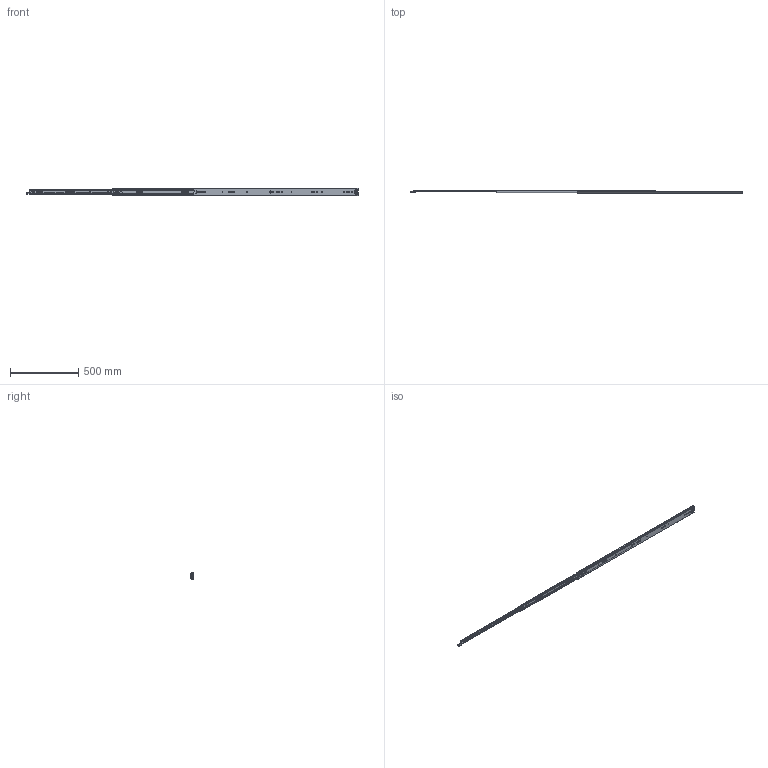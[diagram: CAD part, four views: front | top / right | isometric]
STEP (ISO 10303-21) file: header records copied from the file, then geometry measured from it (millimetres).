
FILE_DESCRIPTION((''),'2;1');
FILE_NAME('KP-57-01ZUZHUANGTU-48_ASM','2023-04-01T',('jishu015'),(''),'PRO/ENGINEER BY PARAMETRIC TECHNOLOGY CORPORATION, 2010280','PRO/ENGINEER BY PARAMETRIC TECHNOLOGY CORPORATION, 2010280','');
FILE_SCHEMA(('CONFIG_CONTROL_DESIGN'));
Products named in the file (22): KP-57-01WEIKE-18____; 1057WEIJIAO____; WAIKE___ASM; KP-57-01ZHONGGUI-18____; ZHONGGUIPEIJIAN-11__; ZHONGGUISUOKOU-11__; KP-57-01ZHONGGUI-18_____ASM; 1057XIAOZHUJIA____; 1057-5-6GANZHU____; 1057XIAOZHUJIA-14GE_____ASM; KP-57-01NEIGUI-18____; PJ-57-08__; DIAOPIAN-11__; 50XINSUOKOU-1__; TANHUANG__; 1053-3SBANJI122; JIAO11; KP-57-01NEIGUI-18_____ASM; 1053ZHUTIAO-175________; 53-5-6GANZHU________; 1053ZHUTIAO-175MM___ASM; KP-57-01ZUZHUANGTU-48_ASM
Assembly tree (130 placements, depth 3):
  KP-57-01ZUZHUANGTU-48_ASM
    WAIKE___ASM
      KP-57-01WEIKE-18____
      1057WEIJIAO____
    KP-57-01ZHONGGUI-18_____ASM
      KP-57-01ZHONGGUI-18____
      ZHONGGUIPEIJIAN-11__
      ZHONGGUISUOKOU-11__
    1057XIAOZHUJIA-14GE_____ASM
      1057XIAOZHUJIA____
      1057-5-6GANZHU____  x88
    KP-57-01NEIGUI-18_____ASM
      KP-57-01NEIGUI-18____
      PJ-57-08__
      DIAOPIAN-11__
      50XINSUOKOU-1__
      TANHUANG__
      1053-3SBANJI122
      JIAO11
    1053ZHUTIAO-175MM___ASM  x2
      1053ZHUTIAO-175________
      53-5-6GANZHU________
Bounding box: 2426.92 x 19.05 x 57.7 mm (x, y, z)
Volume: 530184 mm3; surface area: 579237.6 mm2
Topology: 149 solids, 149 shells, 3358 faces, 9738 edges, 6037 vertices
Faces by surface type: cylinder 1483, plane 1316, sphere 275, bspline 152, cone 86, torus 23, extrusion 23
Entity records: 106575 total; most frequent: CARTESIAN_POINT 26101, ORIENTED_EDGE 17040, DIRECTION 16603, EDGE_CURVE 8520, AXIS2_PLACEMENT_3D 5739, VERTEX_POINT 5497, VECTOR 5125, LINE 5102
